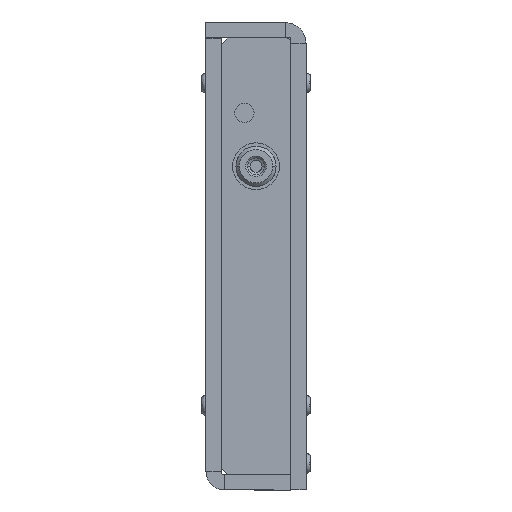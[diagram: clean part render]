
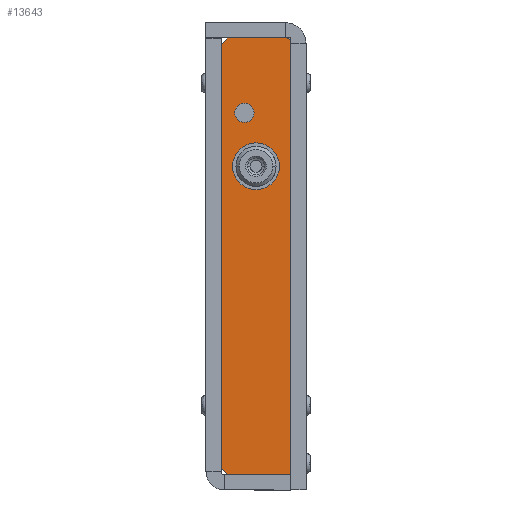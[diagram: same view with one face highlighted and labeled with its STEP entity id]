
A CAD part, left-side view. The second image highlights one B-rep face of the part: STEP entity #13643.
In plain terms, the highlighted planar face has unit normal (-1, 0, 0).
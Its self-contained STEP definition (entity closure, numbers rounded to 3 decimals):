
#349 = FACE_OUTER_BOUND ( 'NONE', #12005, .T. ) ;
#699 = CARTESIAN_POINT ( 'NONE',  ( 0., 2.27, -67.73 ) ) ;
#795 = ORIENTED_EDGE ( 'NONE', *, *, #10278, .T. ) ;
#1195 = CARTESIAN_POINT ( 'NONE',  ( 0., 7.5, -25. ) ) ;
#1691 = CARTESIAN_POINT ( 'NONE',  ( 0., 2.27, -2.27 ) ) ;
#1724 = ORIENTED_EDGE ( 'NONE', *, *, #19595, .T. ) ;
#1727 = CARTESIAN_POINT ( 'NONE',  ( 0., 7.5, -21.5 ) ) ;
#1731 = EDGE_LOOP ( 'NONE', ( #1724, #11565 ) ) ;
#1949 = CIRCLE ( 'NONE', #5956, 3.5 ) ;
#2061 = VERTEX_POINT ( 'NONE', #12498 ) ;
#2216 = CARTESIAN_POINT ( 'NONE',  ( 0., 12.73, -67.73 ) ) ;
#2502 = VERTEX_POINT ( 'NONE', #6574 ) ;
#2731 = CIRCLE ( 'NONE', #4409, 1.45 ) ;
#2818 = VERTEX_POINT ( 'NONE', #5946 ) ;
#2829 = DIRECTION ( 'NONE',  ( 0., 1., 0. ) ) ;
#3053 = CIRCLE ( 'NONE', #11065, 1.45 ) ;
#3573 = PLANE ( 'NONE',  #18568 ) ;
#3591 = DIRECTION ( 'NONE',  ( -1., 0., 0. ) ) ;
#3890 = VERTEX_POINT ( 'NONE', #9840 ) ;
#3975 = DIRECTION ( 'NONE',  ( 0., 0.707, -0.707 ) ) ;
#4301 = EDGE_CURVE ( 'NONE', #15107, #19295, #19731, .T. ) ;
#4342 = CARTESIAN_POINT ( 'NONE',  ( 0., 2.27, -67.73 ) ) ;
#4409 = AXIS2_PLACEMENT_3D ( 'NONE', #12326, #20171, #20281 ) ;
#4818 = EDGE_CURVE ( 'NONE', #2818, #8115, #8533, .T. ) ;
#5110 = VECTOR ( 'NONE', #5408, 1000. ) ;
#5187 = DIRECTION ( 'NONE',  ( 0., 0., 1. ) ) ;
#5334 = VERTEX_POINT ( 'NONE', #8861 ) ;
#5408 = DIRECTION ( 'NONE',  ( 0., -1., 0. ) ) ;
#5547 = LINE ( 'NONE', #13593, #8596 ) ;
#5692 = DIRECTION ( 'NONE',  ( -1., 0., 0. ) ) ;
#5737 = VECTOR ( 'NONE', #17009, 1000. ) ;
#5802 = ORIENTED_EDGE ( 'NONE', *, *, #15686, .T. ) ;
#5946 = CARTESIAN_POINT ( 'NONE',  ( 0., 7.5, -18. ) ) ;
#5956 = AXIS2_PLACEMENT_3D ( 'NONE', #1727, #3591, #12908 ) ;
#6534 = DIRECTION ( 'NONE',  ( 0., 0., -1. ) ) ;
#6574 = CARTESIAN_POINT ( 'NONE',  ( 0., 9.23, -12.05 ) ) ;
#6613 = EDGE_CURVE ( 'NONE', #8115, #2818, #1949, .T. ) ;
#6698 = FACE_BOUND ( 'NONE', #8545, .T. ) ;
#7281 = CARTESIAN_POINT ( 'NONE',  ( 0., 9.23, -14.95 ) ) ;
#7662 = DIRECTION ( 'NONE',  ( 0., 0., 1. ) ) ;
#8115 = VERTEX_POINT ( 'NONE', #1195 ) ;
#8276 = FACE_BOUND ( 'NONE', #1731, .T. ) ;
#8294 = EDGE_CURVE ( 'NONE', #2061, #13454, #16738, .T. ) ;
#8331 = VECTOR ( 'NONE', #2829, 1000. ) ;
#8533 = CIRCLE ( 'NONE', #18553, 3.5 ) ;
#8545 = EDGE_LOOP ( 'NONE', ( #10427, #11338 ) ) ;
#8596 = VECTOR ( 'NONE', #3975, 1000. ) ;
#8861 = CARTESIAN_POINT ( 'NONE',  ( 0., 11.73, -2.27 ) ) ;
#9840 = CARTESIAN_POINT ( 'NONE',  ( 0., 2.27, -2.27 ) ) ;
#10278 = EDGE_CURVE ( 'NONE', #19295, #3890, #15121, .T. ) ;
#10320 = CARTESIAN_POINT ( 'NONE',  ( 0., 12.73, -66.73 ) ) ;
#10427 = ORIENTED_EDGE ( 'NONE', *, *, #4818, .F. ) ;
#10597 = CARTESIAN_POINT ( 'NONE',  ( 0., 7.5, -21.5 ) ) ;
#10992 = ORIENTED_EDGE ( 'NONE', *, *, #8294, .T. ) ;
#11051 = ORIENTED_EDGE ( 'NONE', *, *, #13895, .T. ) ;
#11065 = AXIS2_PLACEMENT_3D ( 'NONE', #17735, #17936, #6534 ) ;
#11123 = ORIENTED_EDGE ( 'NONE', *, *, #4301, .T. ) ;
#11298 = VECTOR ( 'NONE', #5187, 1000. ) ;
#11338 = ORIENTED_EDGE ( 'NONE', *, *, #6613, .F. ) ;
#11565 = ORIENTED_EDGE ( 'NONE', *, *, #15936, .T. ) ;
#12005 = EDGE_LOOP ( 'NONE', ( #11051, #18176, #10992, #5802, #11123, #795 ) ) ;
#12326 = CARTESIAN_POINT ( 'NONE',  ( 0., 9.23, -13.5 ) ) ;
#12498 = CARTESIAN_POINT ( 'NONE',  ( 0., 12.73, -3.27 ) ) ;
#12908 = DIRECTION ( 'NONE',  ( 0., 0., 1. ) ) ;
#13388 = CARTESIAN_POINT ( 'NONE',  ( 0., 11.73, -67.73 ) ) ;
#13454 = VERTEX_POINT ( 'NONE', #17492 ) ;
#13593 = CARTESIAN_POINT ( 'NONE',  ( 0., 11.73, -2.27 ) ) ;
#13643 = ADVANCED_FACE ( 'NONE', ( #8276, #6698, #349 ), #3573, .F. ) ;
#13895 = EDGE_CURVE ( 'NONE', #3890, #5334, #15896, .T. ) ;
#14986 = CARTESIAN_POINT ( 'NONE',  ( 0., 7.5, -35. ) ) ;
#15107 = VERTEX_POINT ( 'NONE', #13388 ) ;
#15121 = LINE ( 'NONE', #699, #11298 ) ;
#15686 = EDGE_CURVE ( 'NONE', #13454, #15107, #19839, .T. ) ;
#15793 = VERTEX_POINT ( 'NONE', #7281 ) ;
#15896 = LINE ( 'NONE', #1691, #8331 ) ;
#15936 = EDGE_CURVE ( 'NONE', #2502, #15793, #3053, .T. ) ;
#16645 = DIRECTION ( 'NONE',  ( 0., 0., -1. ) ) ;
#16670 = VECTOR ( 'NONE', #16645, 1000. ) ;
#16738 = LINE ( 'NONE', #2216, #16670 ) ;
#17009 = DIRECTION ( 'NONE',  ( 0., -0.707, -0.707 ) ) ;
#17492 = CARTESIAN_POINT ( 'NONE',  ( 0., 12.73, -66.73 ) ) ;
#17735 = CARTESIAN_POINT ( 'NONE',  ( 0., 9.23, -13.5 ) ) ;
#17936 = DIRECTION ( 'NONE',  ( 1., 0., 0. ) ) ;
#18012 = DIRECTION ( 'NONE',  ( 0., 0., -1. ) ) ;
#18176 = ORIENTED_EDGE ( 'NONE', *, *, #18377, .T. ) ;
#18373 = CARTESIAN_POINT ( 'NONE',  ( 0., 2.27, -67.73 ) ) ;
#18377 = EDGE_CURVE ( 'NONE', #5334, #2061, #5547, .T. ) ;
#18553 = AXIS2_PLACEMENT_3D ( 'NONE', #10597, #5692, #7662 ) ;
#18568 = AXIS2_PLACEMENT_3D ( 'NONE', #14986, #19680, #18012 ) ;
#19295 = VERTEX_POINT ( 'NONE', #4342 ) ;
#19595 = EDGE_CURVE ( 'NONE', #15793, #2502, #2731, .T. ) ;
#19680 = DIRECTION ( 'NONE',  ( 1., 0., 0. ) ) ;
#19731 = LINE ( 'NONE', #18373, #5110 ) ;
#19839 = LINE ( 'NONE', #10320, #5737 ) ;
#20171 = DIRECTION ( 'NONE',  ( 1., 0., 0. ) ) ;
#20281 = DIRECTION ( 'NONE',  ( 0., 0., -1. ) ) ;
